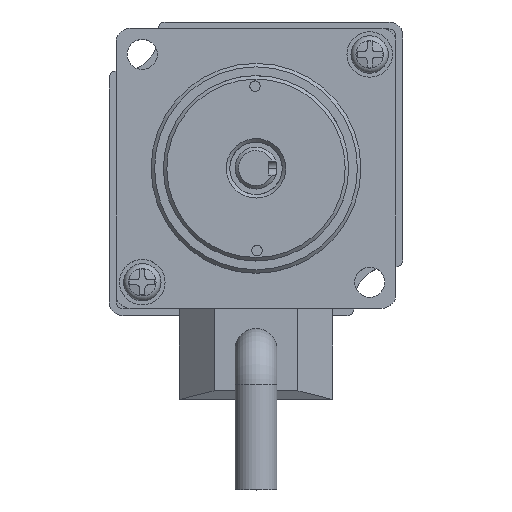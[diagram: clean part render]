
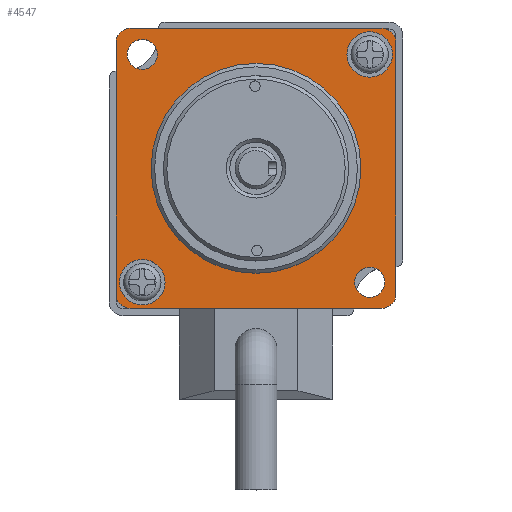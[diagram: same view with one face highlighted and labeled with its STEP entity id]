
A CAD part, top view. The second image highlights one B-rep face of the part: STEP entity #4547.
In plain terms, the highlighted planar face has unit normal (0, 0, 1).
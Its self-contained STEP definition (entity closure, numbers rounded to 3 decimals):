
#101 = DIRECTION ( 'NONE',  ( 0., 1., 0. ) ) ;
#226 = FACE_OUTER_BOUND ( 'NONE', #14644, .T. ) ;
#274 = EDGE_LOOP ( 'NONE', ( #14187 ) ) ;
#405 = ORIENTED_EDGE ( 'NONE', *, *, #5223, .T. ) ;
#413 = DIRECTION ( 'NONE',  ( 0., -1., 0. ) ) ;
#679 = VERTEX_POINT ( 'NONE', #12584 ) ;
#724 = DIRECTION ( 'NONE',  ( 1., 0., 0. ) ) ;
#815 = DIRECTION ( 'NONE',  ( 0., 0., 1. ) ) ;
#926 = AXIS2_PLACEMENT_3D ( 'NONE', #8808, #7711, #4073 ) ;
#1009 = ORIENTED_EDGE ( 'NONE', *, *, #10026, .T. ) ;
#1560 = VECTOR ( 'NONE', #4066, 1000. ) ;
#1640 = CARTESIAN_POINT ( 'NONE',  ( 18.4, -17.413, 62.55 ) ) ;
#1789 = EDGE_LOOP ( 'NONE', ( #12625 ) ) ;
#1926 = CIRCLE ( 'NONE', #5983, 15. ) ;
#2035 = DIRECTION ( 'NONE',  ( -1., 0., 0. ) ) ;
#2374 = CIRCLE ( 'NONE', #9798, 2.15 ) ;
#2562 = CARTESIAN_POINT ( 'NONE',  ( -20., -19.13, 62.55 ) ) ;
#2751 = CARTESIAN_POINT ( 'NONE',  ( 18., 16.87, 62.55 ) ) ;
#2874 = FACE_BOUND ( 'NONE', #1789, .T. ) ;
#3177 = ORIENTED_EDGE ( 'NONE', *, *, #6213, .T. ) ;
#3248 = CIRCLE ( 'NONE', #12099, 2.15 ) ;
#3282 = DIRECTION ( 'NONE',  ( -1., 0., 0. ) ) ;
#3306 = VERTEX_POINT ( 'NONE', #3512 ) ;
#3387 = CARTESIAN_POINT ( 'NONE',  ( -18., -21.13, 62.55 ) ) ;
#3447 = CIRCLE ( 'NONE', #5378, 2. ) ;
#3499 = DIRECTION ( 'NONE',  ( 1., 0., 0. ) ) ;
#3512 = CARTESIAN_POINT ( 'NONE',  ( 19.5, 15.152, 62.55 ) ) ;
#3715 = CARTESIAN_POINT ( 'NONE',  ( -14.1, 15.152, 62.55 ) ) ;
#3781 = FACE_BOUND ( 'NONE', #274, .T. ) ;
#3867 = VERTEX_POINT ( 'NONE', #1640 ) ;
#3938 = VERTEX_POINT ( 'NONE', #10961 ) ;
#4066 = DIRECTION ( 'NONE',  ( 1., 0., 0. ) ) ;
#4073 = DIRECTION ( 'NONE',  ( -1., 0., 0. ) ) ;
#4132 = CARTESIAN_POINT ( 'NONE',  ( -18., -21.13, 62.55 ) ) ;
#4196 = CIRCLE ( 'NONE', #13295, 3.25 ) ;
#4241 = DIRECTION ( 'NONE',  ( 1., 0., 0. ) ) ;
#4378 = CARTESIAN_POINT ( 'NONE',  ( 18., -19.13, 62.55 ) ) ;
#4547 = ADVANCED_FACE ( 'NONE', ( #13758, #3781, #6959, #2874, #10526, #226 ), #7178, .F. ) ;
#4782 = DIRECTION ( 'NONE',  ( 0., 0., 1. ) ) ;
#5162 = DIRECTION ( 'NONE',  ( 1., 0., 0. ) ) ;
#5223 = EDGE_CURVE ( 'NONE', #12417, #3938, #8204, .T. ) ;
#5313 = ORIENTED_EDGE ( 'NONE', *, *, #9079, .T. ) ;
#5378 = AXIS2_PLACEMENT_3D ( 'NONE', #14433, #815, #3282 ) ;
#5386 = EDGE_CURVE ( 'NONE', #11460, #11460, #9678, .T. ) ;
#5515 = ORIENTED_EDGE ( 'NONE', *, *, #12615, .T. ) ;
#5849 = LINE ( 'NONE', #12521, #9259 ) ;
#5983 = AXIS2_PLACEMENT_3D ( 'NONE', #6148, #14093, #12739 ) ;
#6120 = EDGE_CURVE ( 'NONE', #3306, #3306, #4196, .T. ) ;
#6127 = AXIS2_PLACEMENT_3D ( 'NONE', #4378, #8971, #4241 ) ;
#6148 = CARTESIAN_POINT ( 'NONE',  ( 0., -1.13, 62.55 ) ) ;
#6213 = EDGE_CURVE ( 'NONE', #3938, #9912, #12561, .T. ) ;
#6521 = EDGE_CURVE ( 'NONE', #9912, #12940, #11035, .T. ) ;
#6584 = EDGE_LOOP ( 'NONE', ( #8673 ) ) ;
#6673 = ORIENTED_EDGE ( 'NONE', *, *, #7177, .F. ) ;
#6705 = CARTESIAN_POINT ( 'NONE',  ( -16.25, 15.152, 62.55 ) ) ;
#6837 = EDGE_CURVE ( 'NONE', #679, #6889, #8866, .T. ) ;
#6856 = EDGE_CURVE ( 'NONE', #3867, #3867, #2374, .T. ) ;
#6889 = VERTEX_POINT ( 'NONE', #14226 ) ;
#6959 = FACE_BOUND ( 'NONE', #13333, .T. ) ;
#7177 = EDGE_CURVE ( 'NONE', #9584, #9584, #1926, .T. ) ;
#7178 = PLANE ( 'NONE',  #926 ) ;
#7233 = CARTESIAN_POINT ( 'NONE',  ( 20., -19.13, 62.55 ) ) ;
#7254 = DIRECTION ( 'NONE',  ( -1., 0., 0. ) ) ;
#7279 = DIRECTION ( 'NONE',  ( -1., 0., 0. ) ) ;
#7318 = DIRECTION ( 'NONE',  ( 0., 0., 1. ) ) ;
#7337 = DIRECTION ( 'NONE',  ( 0., 0., 1. ) ) ;
#7386 = ORIENTED_EDGE ( 'NONE', *, *, #6521, .T. ) ;
#7419 = AXIS2_PLACEMENT_3D ( 'NONE', #2751, #13032, #7279 ) ;
#7537 = LINE ( 'NONE', #12303, #8351 ) ;
#7711 = DIRECTION ( 'NONE',  ( 0., 0., -1. ) ) ;
#7730 = CARTESIAN_POINT ( 'NONE',  ( -18., 18.87, 62.55 ) ) ;
#8204 = LINE ( 'NONE', #2562, #9903 ) ;
#8351 = VECTOR ( 'NONE', #2035, 1000. ) ;
#8537 = CIRCLE ( 'NONE', #6127, 2. ) ;
#8635 = CARTESIAN_POINT ( 'NONE',  ( 16.25, -17.413, 62.55 ) ) ;
#8673 = ORIENTED_EDGE ( 'NONE', *, *, #6856, .F. ) ;
#8808 = CARTESIAN_POINT ( 'NONE',  ( -18., -19.13, 62.55 ) ) ;
#8866 = CIRCLE ( 'NONE', #7419, 2. ) ;
#8971 = DIRECTION ( 'NONE',  ( 0., 0., 1. ) ) ;
#9079 = EDGE_CURVE ( 'NONE', #6889, #12026, #7537, .T. ) ;
#9259 = VECTOR ( 'NONE', #101, 1000. ) ;
#9360 = VERTEX_POINT ( 'NONE', #3715 ) ;
#9489 = CARTESIAN_POINT ( 'NONE',  ( -18., -19.13, 62.55 ) ) ;
#9584 = VERTEX_POINT ( 'NONE', #12948 ) ;
#9678 = CIRCLE ( 'NONE', #13021, 3.25 ) ;
#9798 = AXIS2_PLACEMENT_3D ( 'NONE', #8635, #14380, #5162 ) ;
#9903 = VECTOR ( 'NONE', #413, 1000. ) ;
#9912 = VERTEX_POINT ( 'NONE', #3387 ) ;
#9940 = AXIS2_PLACEMENT_3D ( 'NONE', #9489, #7337, #7254 ) ;
#10026 = EDGE_CURVE ( 'NONE', #10651, #679, #5849, .T. ) ;
#10119 = CARTESIAN_POINT ( 'NONE',  ( -13., -17.413, 62.55 ) ) ;
#10191 = ORIENTED_EDGE ( 'NONE', *, *, #6120, .F. ) ;
#10294 = CARTESIAN_POINT ( 'NONE',  ( 18., -21.13, 62.55 ) ) ;
#10303 = EDGE_LOOP ( 'NONE', ( #6673 ) ) ;
#10342 = ORIENTED_EDGE ( 'NONE', *, *, #10491, .T. ) ;
#10452 = CARTESIAN_POINT ( 'NONE',  ( 16.25, 15.152, 62.55 ) ) ;
#10491 = EDGE_CURVE ( 'NONE', #12940, #10651, #8537, .T. ) ;
#10526 = FACE_BOUND ( 'NONE', #6584, .T. ) ;
#10651 = VERTEX_POINT ( 'NONE', #7233 ) ;
#10961 = CARTESIAN_POINT ( 'NONE',  ( -20., -19.13, 62.55 ) ) ;
#11035 = LINE ( 'NONE', #4132, #1560 ) ;
#11111 = CARTESIAN_POINT ( 'NONE',  ( -20., 16.87, 62.55 ) ) ;
#11460 = VERTEX_POINT ( 'NONE', #10119 ) ;
#12026 = VERTEX_POINT ( 'NONE', #7730 ) ;
#12099 = AXIS2_PLACEMENT_3D ( 'NONE', #6705, #12387, #14473 ) ;
#12303 = CARTESIAN_POINT ( 'NONE',  ( -18., 18.87, 62.55 ) ) ;
#12387 = DIRECTION ( 'NONE',  ( 0., 0., 1. ) ) ;
#12417 = VERTEX_POINT ( 'NONE', #11111 ) ;
#12521 = CARTESIAN_POINT ( 'NONE',  ( 20., -19.13, 62.55 ) ) ;
#12561 = CIRCLE ( 'NONE', #9940, 2. ) ;
#12584 = CARTESIAN_POINT ( 'NONE',  ( 20., 16.87, 62.55 ) ) ;
#12615 = EDGE_CURVE ( 'NONE', #12026, #12417, #3447, .T. ) ;
#12625 = ORIENTED_EDGE ( 'NONE', *, *, #13101, .F. ) ;
#12739 = DIRECTION ( 'NONE',  ( -1., 0., 0. ) ) ;
#12940 = VERTEX_POINT ( 'NONE', #10294 ) ;
#12948 = CARTESIAN_POINT ( 'NONE',  ( -15., -1.13, 62.55 ) ) ;
#13021 = AXIS2_PLACEMENT_3D ( 'NONE', #14406, #7318, #724 ) ;
#13032 = DIRECTION ( 'NONE',  ( 0., 0., 1. ) ) ;
#13101 = EDGE_CURVE ( 'NONE', #9360, #9360, #3248, .T. ) ;
#13295 = AXIS2_PLACEMENT_3D ( 'NONE', #10452, #4782, #3499 ) ;
#13333 = EDGE_LOOP ( 'NONE', ( #10191 ) ) ;
#13758 = FACE_BOUND ( 'NONE', #10303, .T. ) ;
#14093 = DIRECTION ( 'NONE',  ( 0., 0., 1. ) ) ;
#14187 = ORIENTED_EDGE ( 'NONE', *, *, #5386, .F. ) ;
#14226 = CARTESIAN_POINT ( 'NONE',  ( 18., 18.87, 62.55 ) ) ;
#14380 = DIRECTION ( 'NONE',  ( 0., 0., 1. ) ) ;
#14406 = CARTESIAN_POINT ( 'NONE',  ( -16.25, -17.413, 62.55 ) ) ;
#14433 = CARTESIAN_POINT ( 'NONE',  ( -18., 16.87, 62.55 ) ) ;
#14473 = DIRECTION ( 'NONE',  ( 1., 0., 0. ) ) ;
#14561 = ORIENTED_EDGE ( 'NONE', *, *, #6837, .T. ) ;
#14644 = EDGE_LOOP ( 'NONE', ( #3177, #7386, #10342, #1009, #14561, #5313, #5515, #405 ) ) ;
